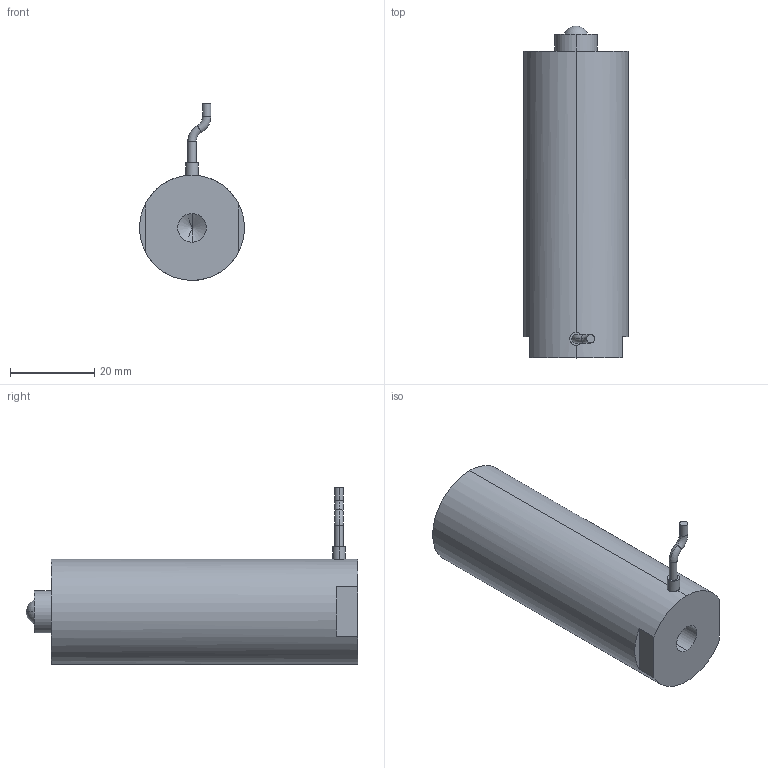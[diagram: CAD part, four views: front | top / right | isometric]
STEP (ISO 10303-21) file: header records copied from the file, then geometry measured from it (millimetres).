
FILE_DESCRIPTION (( 'STEP AP203' ), '1' );
FILE_NAME ('球头式60VS25.STEP', '2021-07-08T07:53:14', ( '微软用户' ), ( '微软公司' ), 'SwSTEP 2.0', 'SolidWorks 2016', '' );
FILE_SCHEMA (( 'CONFIG_CONTROL_DESIGN' ));
Products named in the file (1): ⑩芛宒60VS25
Bounding box: 25 x 79 x 42.06 mm (x, y, z)
Volume: 35711.2 mm3; surface area: 7213.2 mm2
Topology: 1 solids, 1 shells, 933 faces, 2528 edges, 1680 vertices
Faces by surface type: bspline 519, plane 303, cylinder 103, torus 4, sphere 2, cone 2
Entity records: 44710 total; most frequent: CARTESIAN_POINT 25834, ORIENTED_EDGE 5044, EDGE_CURVE 2522, DIRECTION 1902, B_SPLINE_CURVE_WITH_KNOTS 1716, VERTEX_POINT 1678, EDGE_LOOP 1020, ADVANCED_FACE 933
